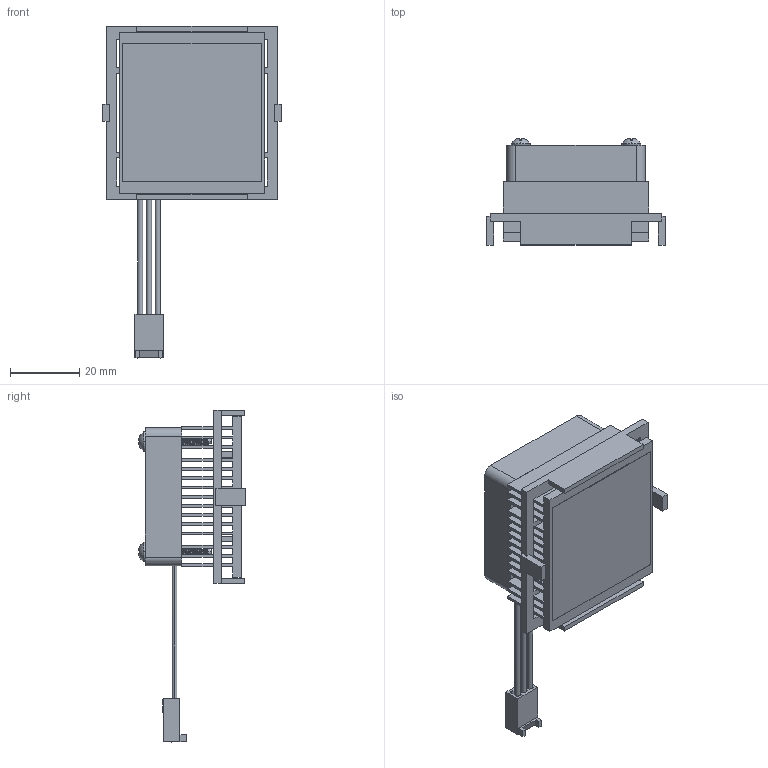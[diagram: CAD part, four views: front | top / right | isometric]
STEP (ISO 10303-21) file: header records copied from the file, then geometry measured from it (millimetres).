
FILE_DESCRIPTION (( 'STEP AP214' ), '1' );
FILE_NAME ('FA47.5-2.5+O.STEP', '2023-03-07T16:41:51', ( '' ), ( '' ), 'SwSTEP 2.0', 'SolidWorks 2020', '' );
FILE_SCHEMA (( 'AUTOMOTIVE_DESIGN' ));
Length unit declared in the file: millimetre
Products named in the file (1): FA47.5-2.5+O
Bounding box: 51.7 x 30.88 x 96.1 mm (x, y, z)
Volume: 23449.3 mm3; surface area: 39475.1 mm2
Topology: 8 solids, 8 shells, 843 faces, 2461 edges, 1636 vertices
Faces by surface type: plane 327, cylinder 306, bspline 158, cone 36, sphere 8, torus 8
Entity records: 46069 total; most frequent: CARTESIAN_POINT 17341, ORIENTED_EDGE 4922, DIRECTION 3161, EDGE_CURVE 2461, VERTEX_POINT 1636, VECTOR 1249, LINE 1249, AXIS2_PLACEMENT_3D 956
